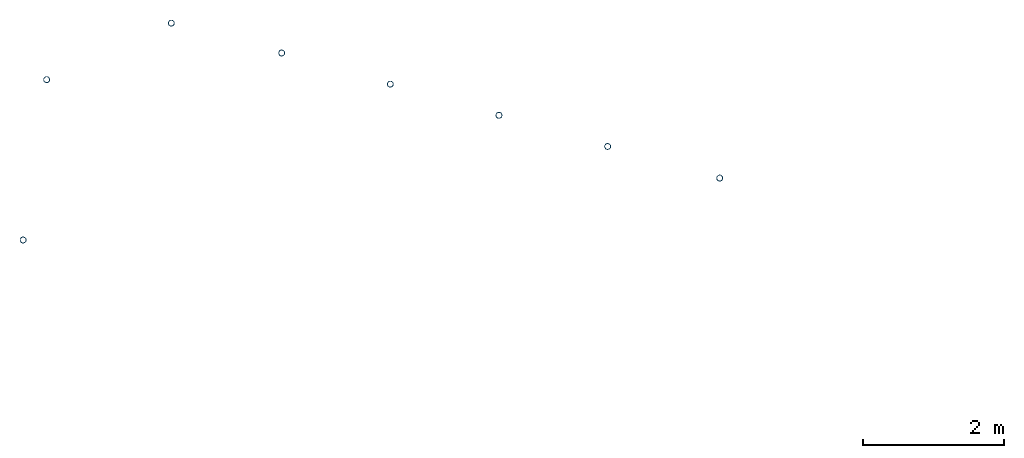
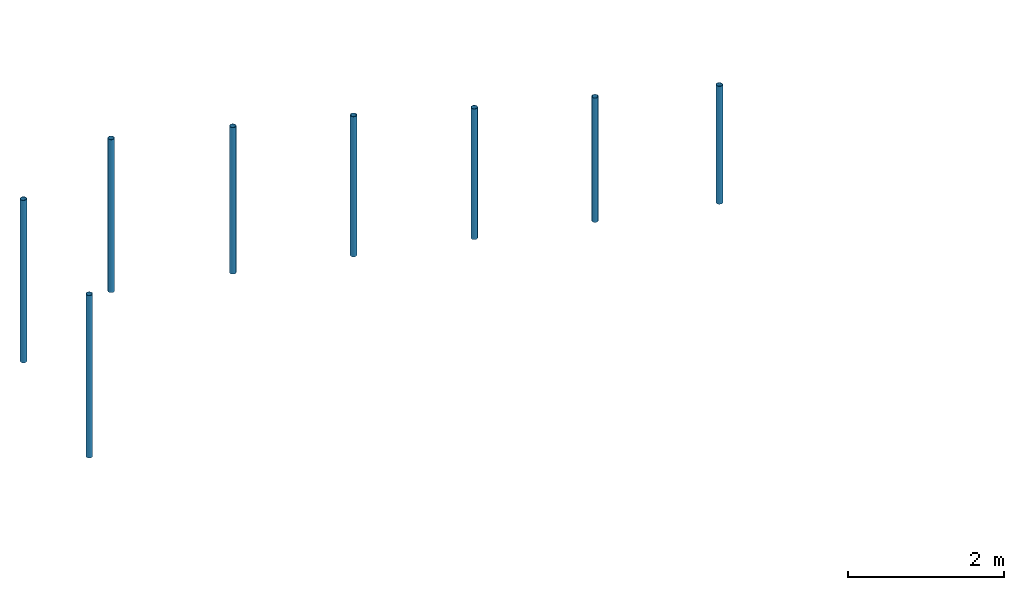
# One storey, part 3 of 5: 8 columns.
"""IFC2X3 building model written with IfcOpenShell, lengths in millimetres."""

from ifc_helpers import new_model, entity, si_unit, converted_unit, derived_unit, direction, frame, frame_2d, origin, place, context, subcontext, project, spatial, hollow_circle, extrude, source, transform, mapped, material, material_list, type_object, type_shapes, element, save


model = new_model("IFC2X3")

# Units and contexts
model_context = context("Model", 3, precision=0.01, world=origin(), true_north=direction((6.12303176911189e-17, 1.0)))
context_of_model = context(None, 3, precision=0.01, world=origin(), true_north=direction((6.12303176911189e-17, 1.0)))
body_context = subcontext(model_context, "Body", "Model", "MODEL_VIEW")
ifc_project = project(units=[si_unit("LENGTHUNIT", "METRE", prefix="MILLI"), si_unit("AREAUNIT", "SQUARE_METRE"), si_unit("VOLUMEUNIT", "CUBIC_METRE"), converted_unit("PLANEANGLEUNIT", "DEGREE", entity("IfcRatioMeasure", 0.0174532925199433), si_unit("PLANEANGLEUNIT", "RADIAN"), dimensions=[0, 0, 0, 0, 0, 0, 0]), si_unit("MASSUNIT", "GRAM", prefix="KILO"), derived_unit("MASSDENSITYUNIT", [(si_unit("MASSUNIT", "GRAM", prefix="KILO"), 1), (si_unit("LENGTHUNIT", "METRE"), -3)]), derived_unit("MOMENTOFINERTIAUNIT", [(si_unit("LENGTHUNIT", "METRE"), 4)]), si_unit("TIMEUNIT", "SECOND"), si_unit("FREQUENCYUNIT", "HERTZ"), si_unit("THERMODYNAMICTEMPERATUREUNIT", "DEGREE_CELSIUS"), derived_unit("THERMALTRANSMITTANCEUNIT", [(si_unit("MASSUNIT", "GRAM", prefix="KILO"), 1), (si_unit("THERMODYNAMICTEMPERATUREUNIT", "KELVIN"), -1), (si_unit("TIMEUNIT", "SECOND"), -3)]), derived_unit("VOLUMETRICFLOWRATEUNIT", [(si_unit("LENGTHUNIT", "METRE"), 3), (si_unit("TIMEUNIT", "SECOND"), -1)]), si_unit("ELECTRICCURRENTUNIT", "AMPERE"), si_unit("ELECTRICVOLTAGEUNIT", "VOLT"), si_unit("POWERUNIT", "WATT"), si_unit("FORCEUNIT", "NEWTON", prefix="KILO"), si_unit("ILLUMINANCEUNIT", "LUX"), si_unit("LUMINOUSFLUXUNIT", "LUMEN"), si_unit("LUMINOUSINTENSITYUNIT", "CANDELA"), derived_unit("USERDEFINED", [(si_unit("MASSUNIT", "GRAM", prefix="KILO"), -1), (si_unit("LENGTHUNIT", "METRE"), -2), (si_unit("TIMEUNIT", "SECOND"), 3), (si_unit("LUMINOUSFLUXUNIT", "LUMEN"), 1)]), derived_unit("LINEARVELOCITYUNIT", [(si_unit("LENGTHUNIT", "METRE"), 1), (si_unit("TIMEUNIT", "SECOND"), -1)]), si_unit("PRESSUREUNIT", "PASCAL"), derived_unit("USERDEFINED", [(si_unit("LENGTHUNIT", "METRE"), -2), (si_unit("MASSUNIT", "GRAM", prefix="KILO"), 1), (si_unit("TIMEUNIT", "SECOND"), -2)]), derived_unit("LINEARFORCEUNIT", [(si_unit("MASSUNIT", "GRAM", prefix="KILO"), 1), (si_unit("LENGTHUNIT", "METRE"), 1), (si_unit("TIMEUNIT", "SECOND"), -2), (si_unit("LENGTHUNIT", "METRE"), -1)]), derived_unit("PLANARFORCEUNIT", [(si_unit("MASSUNIT", "GRAM", prefix="KILO"), 1), (si_unit("LENGTHUNIT", "METRE"), 1), (si_unit("TIMEUNIT", "SECOND"), -2), (si_unit("LENGTHUNIT", "METRE"), -2)])], contexts=[model_context, context_of_model])

# Site, building, storey
site_placement = place(None, origin())
site = spatial("IfcSite", under=ifc_project, at=site_placement, Name="Default", CompositionType="ELEMENT")
building_placement = place(site_placement, origin())
building = spatial("IfcBuilding", under=site, at=building_placement, Name="IFc", CompositionType="ELEMENT")
storey_placement = place(building_placement, frame((0.0, 0.0, 3000.0)))
storey = spatial("IfcBuildingStorey", under=building, at=storey_placement, Name="01 1e verd. b.k. ruwe vloer", CompositionType="ELEMENT", Elevation=3000.00000000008)

# Columns
ifc_material_1 = material(Name="IMd_staal")
ifc_material_2 = material(Name="<Unnamed>")
ifc_material_list_1 = material_list([ifc_material_2, ifc_material_1])
column_type_1 = type_object("IfcColumnType", Name="NLRS_28_SC_TLB_kolom buis_generiek_ISR:ø88.9x5", PredefinedType="COLUMN", material=ifc_material_list_1)
shared_shape_1 = source(origin(), body_context, "Body", "SweptSolid", [
    extrude(hollow_circle(Radius=44.45, WallThickness=4.99999999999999, at=frame_2d((-1.68427735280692e-15, -5.64975186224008e-14), x_axis=(1.0, 0.0))), frame((0.0, 0.0, 5050.0), z_axis=(0.0, 0.0, 1.0), x_axis=(-1.0, 0.0, 0.0)), (0.0, 0.0, 1.0), 2550.0),
])
type_shapes(column_type_1, [shared_shape_1])
for number, where in (
    (1, (9975.34094413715, 24656.3697450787, -3000.0)),
    (2, (10308.3778520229, 26925.3119040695, -3000.0)),
):
    element("IfcColumn", number, at=place(storey_placement, frame(where)), inside=storey, type_object=column_type_1, material=ifc_material_1, Name="NLRS_28_SC_TLB_kolom buis_generiek_ISR:ø88.9x5", ObjectType="NLRS_28_SC_TLB_kolom buis_generiek_ISR:ø88.9x5", context=body_context, shape_type="MappedRepresentation", body=[
        mapped(shared_shape_1, transform((0.0, 0.0, 0.0), scale=1.0)),
    ])
ifc_material_list_2 = material_list([ifc_material_2, ifc_material_1])
column_type_2 = type_object("IfcColumnType", Name="NLRS_28_SC_TLB_kolom buis_generiek_ISR:ø88.9x5", PredefinedType="COLUMN", material=ifc_material_list_2)
shared_shape_2 = source(origin(), body_context, "Body", "SweptSolid", [
    extrude(hollow_circle(Radius=44.45, WallThickness=4.99999999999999, at=frame_2d((-1.68427735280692e-15, -5.64975186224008e-14), x_axis=(1.0, 0.0))), frame((0.0, 0.0, 5050.0), z_axis=(0.0, 0.0, 1.0), x_axis=(-1.0, 0.0, 0.0)), (0.0, 0.0, 1.0), 2400.0),
])
type_shapes(column_type_2, [shared_shape_2])
column_1_placement = place(storey_placement, frame((12072.4369088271, 27726.0375567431, -3000.0)))
element("IfcColumn", 3, at=column_1_placement, inside=storey, type_object=column_type_2, material=ifc_material_1, Name="NLRS_28_SC_TLB_kolom buis_generiek_ISR:ø88.9x5", ObjectType="NLRS_28_SC_TLB_kolom buis_generiek_ISR:ø88.9x5", context=body_context, shape_type="MappedRepresentation", body=[
    mapped(shared_shape_2, transform((0.0, 0.0, 0.0), scale=1.0)),
])
ifc_material_list_3 = material_list([ifc_material_2, ifc_material_1])
column_type_3 = type_object("IfcColumnType", Name="NLRS_28_SC_TLB_kolom buis_generiek_ISR:ø88.9x5", PredefinedType="COLUMN", material=ifc_material_list_3)
shared_shape_3 = source(origin(), body_context, "Body", "SweptSolid", [
    extrude(hollow_circle(Radius=44.45, WallThickness=4.99999999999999, at=frame_2d((-1.68427735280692e-15, -5.64975186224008e-14), x_axis=(1.0, 0.0))), frame((0.0, 0.0, 5050.0), z_axis=(0.0, 0.0, 1.0), x_axis=(-1.0, 0.0, 0.0)), (0.0, 0.0, 1.0), 2300.0),
])
type_shapes(column_type_3, [shared_shape_3])
column_2_placement = place(storey_placement, frame((13634.4871647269, 27303.1268535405, -3000.0)))
element("IfcColumn", 4, at=column_2_placement, inside=storey, type_object=column_type_3, material=ifc_material_1, Name="NLRS_28_SC_TLB_kolom buis_generiek_ISR:ø88.9x5", ObjectType="NLRS_28_SC_TLB_kolom buis_generiek_ISR:ø88.9x5", context=body_context, shape_type="MappedRepresentation", body=[
    mapped(shared_shape_3, transform((0.0, 0.0, 0.0), scale=1.0)),
])
ifc_material_list_4 = material_list([ifc_material_2, ifc_material_1])
column_type_4 = type_object("IfcColumnType", Name="NLRS_28_SC_TLB_kolom buis_generiek_ISR:ø88.9x5", PredefinedType="COLUMN", material=ifc_material_list_4)
shared_shape_4 = source(origin(), body_context, "Body", "SweptSolid", [
    extrude(hollow_circle(Radius=44.45, WallThickness=4.99999999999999, at=frame_2d((-1.68427735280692e-15, -5.64975186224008e-14), x_axis=(1.0, 0.0))), frame((0.0, 0.0, 5050.0), z_axis=(0.0, 0.0, 1.0), x_axis=(-1.0, 0.0, 0.0)), (0.0, 0.0, 1.0), 2200.0),
])
type_shapes(column_type_4, [shared_shape_4])
column_3_placement = place(storey_placement, frame((15172.5058782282, 26862.1070842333, -3000.0)))
element("IfcColumn", 5, at=column_3_placement, inside=storey, type_object=column_type_4, material=ifc_material_1, Name="NLRS_28_SC_TLB_kolom buis_generiek_ISR:ø88.9x5", ObjectType="NLRS_28_SC_TLB_kolom buis_generiek_ISR:ø88.9x5", context=body_context, shape_type="MappedRepresentation", body=[
    mapped(shared_shape_4, transform((0.0, 0.0, 0.0), scale=1.0)),
])
ifc_material_list_5 = material_list([ifc_material_2, ifc_material_1])
column_type_5 = type_object("IfcColumnType", Name="NLRS_28_SC_TLB_kolom buis_generiek_ISR:ø88.9x5", PredefinedType="COLUMN", material=ifc_material_list_5)
shared_shape_5 = source(origin(), body_context, "Body", "SweptSolid", [
    extrude(hollow_circle(Radius=44.45, WallThickness=4.99999999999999, at=frame_2d((-1.68427735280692e-15, -5.64975186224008e-14), x_axis=(1.0, 0.0))), frame((0.0, 0.0, 5050.0), z_axis=(0.0, 0.0, 1.0), x_axis=(-1.0, 0.0, 0.0)), (0.0, 0.0, 1.0), 2050.0),
])
type_shapes(column_type_5, [shared_shape_5])
column_4_placement = place(storey_placement, frame((16710.5245917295, 26421.0873149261, -3000.0)))
element("IfcColumn", 6, at=column_4_placement, inside=storey, type_object=column_type_5, material=ifc_material_1, Name="NLRS_28_SC_TLB_kolom buis_generiek_ISR:ø88.9x5", ObjectType="NLRS_28_SC_TLB_kolom buis_generiek_ISR:ø88.9x5", context=body_context, shape_type="MappedRepresentation", body=[
    mapped(shared_shape_5, transform((0.0, 0.0, 0.0), scale=1.0)),
])
ifc_material_list_6 = material_list([ifc_material_2, ifc_material_1])
column_type_6 = type_object("IfcColumnType", Name="NLRS_28_SC_TLB_kolom buis_generiek_ISR:ø88.9x5", PredefinedType="COLUMN", material=ifc_material_list_6)
shared_shape_6 = source(origin(), body_context, "Body", "SweptSolid", [
    extrude(hollow_circle(Radius=44.45, WallThickness=4.99999999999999, at=frame_2d((-1.68427735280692e-15, -5.64975186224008e-14), x_axis=(1.0, 0.0))), frame((0.0, 0.0, 5050.0), z_axis=(0.0, 0.0, 1.0), x_axis=(-1.0, 0.0, 0.0)), (0.0, 0.0, 1.0), 1950.0),
])
type_shapes(column_type_6, [shared_shape_6])
column_5_placement = place(storey_placement, frame((18248.5433052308, 25980.0675456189, -3000.0)))
element("IfcColumn", 7, at=column_5_placement, inside=storey, type_object=column_type_6, material=ifc_material_1, Name="NLRS_28_SC_TLB_kolom buis_generiek_ISR:ø88.9x5", ObjectType="NLRS_28_SC_TLB_kolom buis_generiek_ISR:ø88.9x5", context=body_context, shape_type="MappedRepresentation", body=[
    mapped(shared_shape_6, transform((0.0, 0.0, 0.0), scale=1.0)),
])
ifc_material_list_7 = material_list([ifc_material_2, ifc_material_1])
column_type_7 = type_object("IfcColumnType", Name="NLRS_28_SC_TLB_kolom buis_generiek_ISR:ø88.9x5", PredefinedType="COLUMN", material=ifc_material_list_7)
shared_shape_7 = source(origin(), body_context, "Body", "SweptSolid", [
    extrude(hollow_circle(Radius=44.45, WallThickness=4.99999999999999, at=frame_2d((-1.68427735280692e-15, -5.64975186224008e-14), x_axis=(1.0, 0.0))), frame((0.0, 0.0, 5050.0), z_axis=(0.0, 0.0, 1.0), x_axis=(-1.0, 0.0, 0.0)), (0.0, 0.0, 1.0), 1850.0),
])
type_shapes(column_type_7, [shared_shape_7])
column_6_placement = place(storey_placement, frame((19835.5927172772, 25532.1539002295, -3000.0)))
element("IfcColumn", 8, at=column_6_placement, inside=storey, type_object=column_type_7, material=ifc_material_1, Name="NLRS_28_SC_TLB_kolom buis_generiek_ISR:ø88.9x5", ObjectType="NLRS_28_SC_TLB_kolom buis_generiek_ISR:ø88.9x5", context=body_context, shape_type="MappedRepresentation", body=[
    mapped(shared_shape_7, transform((0.0, 0.0, 0.0), scale=1.0)),
])

save(model, "model.ifc")
